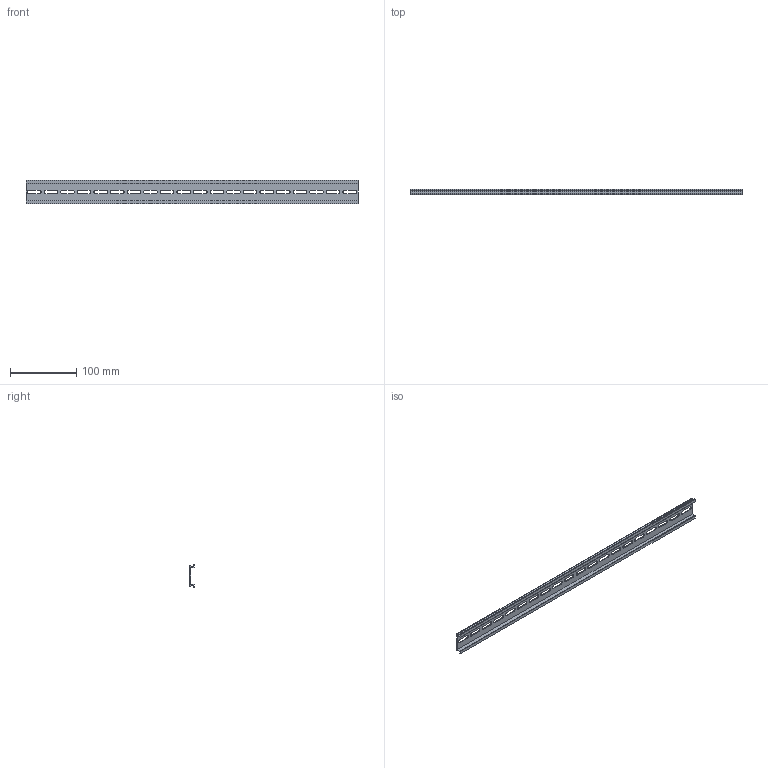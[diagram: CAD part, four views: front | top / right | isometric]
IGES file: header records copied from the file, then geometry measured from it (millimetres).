
Start section: ------------------------------------------------------------------------
Global section: file name: D:\ICADMX\tmp\trans3d_spg\CVICAD02.21224.DIN-RAIL500_7903.igs; native system: spGate; preprocessor: ver12.6.6; author: Unknown; organization: Unknown; date: 200901.142100; units: millimetre
Bounding box: 500 x 7.5 x 35 mm (x, y, z)
Volume: 35299.2 mm3; surface area: 47170.3 mm2
Topology: 1 solids, 1 shells, 100 faces, 294 edges, 196 vertices
Faces by surface type: bspline 100
